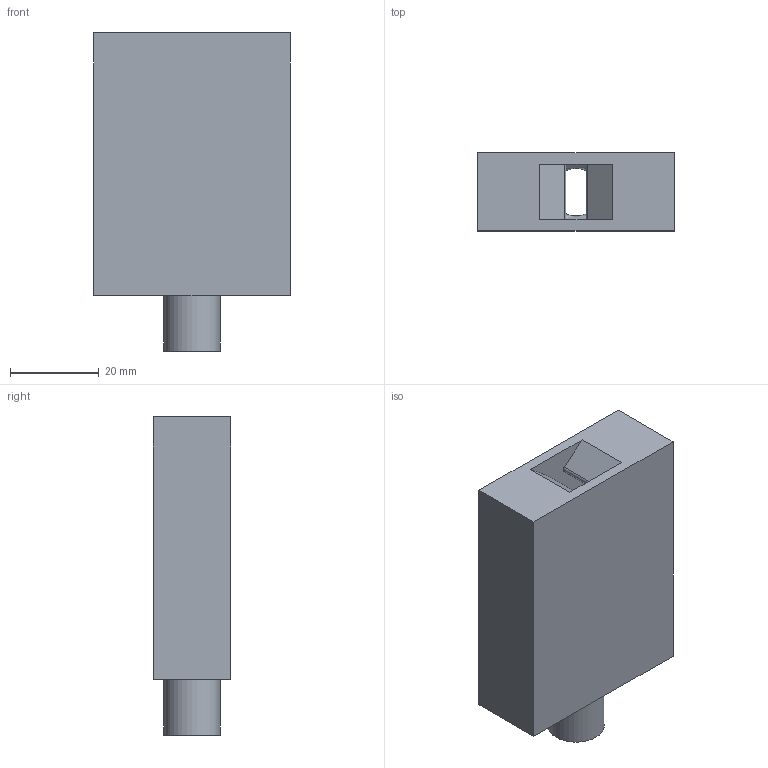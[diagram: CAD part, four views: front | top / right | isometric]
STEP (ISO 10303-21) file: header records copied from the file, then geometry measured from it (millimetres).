
FILE_DESCRIPTION(/* description */ (''),/* implementation_level */ '2;1');
FILE_NAME(/* name */ 'F:/Privat/Hobby/3D-Modelle/WaterExp v1.step',/* time_stamp */ '2019-05-01T14:46:25+02:00',/* author */ ('TKWSchroeder'),/* organization */ (''),/* preprocessor_version */ 'ST-DEVELOPER v18',/* originating_system */ 'Autodesk Translation Framework v8.2.0.1029',/* authorisation */ '');
FILE_SCHEMA (('AUTOMOTIVE_DESIGN { 1 0 10303 214 3 1 1 }'));
Length unit declared in the file: millimetre
Products named in the file (1): WaterExp
Bounding box: 44.32 x 17.5 x 71.67 mm (x, y, z)
Volume: 29955.3 mm3; surface area: 15808.2 mm2
Topology: 1 solids, 1 shells, 49 faces, 134 edges, 84 vertices
Faces by surface type: bspline 26, plane 21, cylinder 2
Full cylindrical faces by diameter (mm): 10.7 x1, 12.7 x1
Entity records: 2544 total; most frequent: CARTESIAN_POINT 1487, ORIENTED_EDGE 262, DIRECTION 145, EDGE_CURVE 131, VERTEX_POINT 85, LINE 75, VECTOR 75, EDGE_LOOP 56
